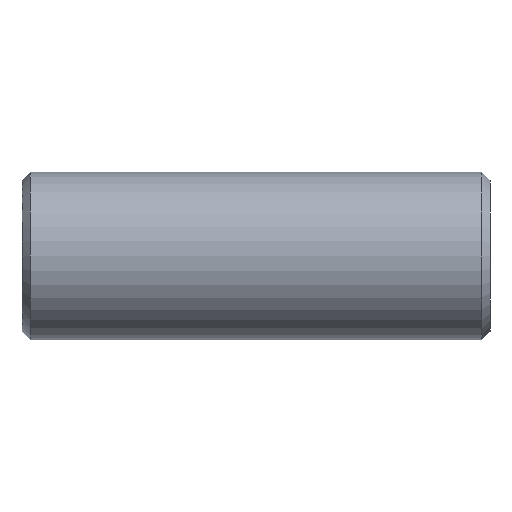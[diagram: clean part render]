
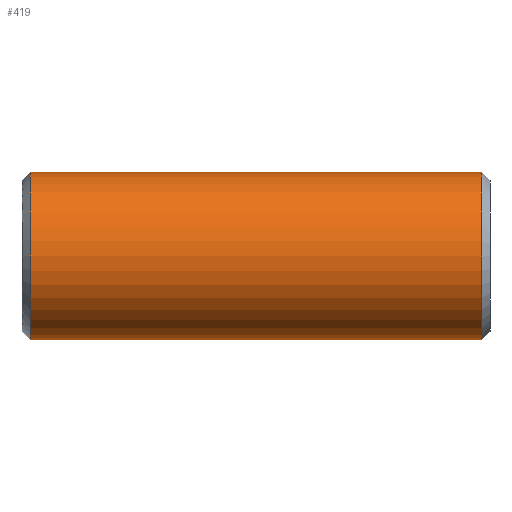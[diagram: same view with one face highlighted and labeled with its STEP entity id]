
A CAD part, front view. The second image highlights one B-rep face of the part: STEP entity #419.
In plain terms, the highlighted cylindrical face has radius 10 mm (diameter 20 mm), a partial arc.
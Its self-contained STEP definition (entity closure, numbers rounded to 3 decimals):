
#231=CARTESIAN_POINT('Vertex',(1.,0.,-10.)) ;
#238=CARTESIAN_POINT('Vertex',(1.,0.,10.)) ;
#267=CARTESIAN_POINT('Axis2P3D Location',(1.,0.,0.)) ;
#271=CARTESIAN_POINT('Vertex',(1.,-10.,0.)) ;
#274=CARTESIAN_POINT('Axis2P3D Location',(1.,0.,0.)) ;
#359=CARTESIAN_POINT('Line Origine',(56.,0.,10.)) ;
#363=CARTESIAN_POINT('Vertex',(55.,0.,10.)) ;
#377=CARTESIAN_POINT('Vertex',(55.,0.,-10.)) ;
#380=CARTESIAN_POINT('Line Origine',(56.,0.,-10.)) ;
#394=CARTESIAN_POINT('Axis2P3D Location',(56.,0.,0.)) ;
#399=CARTESIAN_POINT('Axis2P3D Location',(55.,0.,0.)) ;
#403=CARTESIAN_POINT('Vertex',(55.,-10.,0.)) ;
#406=CARTESIAN_POINT('Axis2P3D Location',(55.,0.,0.)) ;
#268=DIRECTION('Axis2P3D Direction',(1.,0.,-0.)) ;
#275=DIRECTION('Axis2P3D Direction',(1.,0.,-0.)) ;
#360=DIRECTION('Vector Direction',(-1.,0.,0.)) ;
#381=DIRECTION('Vector Direction',(-1.,0.,0.)) ;
#395=DIRECTION('Axis2P3D Direction',(-1.,-0.,-0.)) ;
#396=DIRECTION('Axis2P3D XDirection',(0.,0.,-1.)) ;
#400=DIRECTION('Axis2P3D Direction',(-1.,-0.,-0.)) ;
#407=DIRECTION('Axis2P3D Direction',(-1.,-0.,-0.)) ;
#269=AXIS2_PLACEMENT_3D('Circle Axis2P3D',#267,#268,$) ;
#276=AXIS2_PLACEMENT_3D('Circle Axis2P3D',#274,#275,$) ;
#397=AXIS2_PLACEMENT_3D('Cylinder Axis2P3D',#394,#395,#396) ;
#401=AXIS2_PLACEMENT_3D('Circle Axis2P3D',#399,#400,$) ;
#408=AXIS2_PLACEMENT_3D('Circle Axis2P3D',#406,#407,$) ;
#412=ORIENTED_EDGE('',*,*,#384,.T.) ;
#413=ORIENTED_EDGE('',*,*,#405,.F.) ;
#414=ORIENTED_EDGE('',*,*,#410,.F.) ;
#415=ORIENTED_EDGE('',*,*,#365,.T.) ;
#416=ORIENTED_EDGE('',*,*,#278,.T.) ;
#417=ORIENTED_EDGE('',*,*,#273,.T.) ;
#361=VECTOR('Line Direction',#360,1.) ;
#382=VECTOR('Line Direction',#381,1.) ;
#419=ADVANCED_FACE('352-14X56',(#418),#398,.T.) ;
#270=CIRCLE('generated circle',#269,10.) ;
#277=CIRCLE('generated circle',#276,10.) ;
#402=CIRCLE('generated circle',#401,10.) ;
#409=CIRCLE('generated circle',#408,10.) ;
#398=CYLINDRICAL_SURFACE('generated cylinder',#397,10.) ;
#273=EDGE_CURVE('',#272,#232,#270,.T.) ;
#278=EDGE_CURVE('',#239,#272,#277,.T.) ;
#365=EDGE_CURVE('',#364,#239,#362,.T.) ;
#384=EDGE_CURVE('',#232,#378,#383,.F.) ;
#405=EDGE_CURVE('',#404,#378,#402,.F.) ;
#410=EDGE_CURVE('',#364,#404,#409,.F.) ;
#411=EDGE_LOOP('',(#412,#413,#414,#415,#416,#417)) ;
#418=FACE_OUTER_BOUND('',#411,.T.) ;
#362=LINE('Line',#359,#361) ;
#383=LINE('Line',#380,#382) ;
#232=VERTEX_POINT('',#231) ;
#239=VERTEX_POINT('',#238) ;
#272=VERTEX_POINT('',#271) ;
#364=VERTEX_POINT('',#363) ;
#378=VERTEX_POINT('',#377) ;
#404=VERTEX_POINT('',#403) ;
